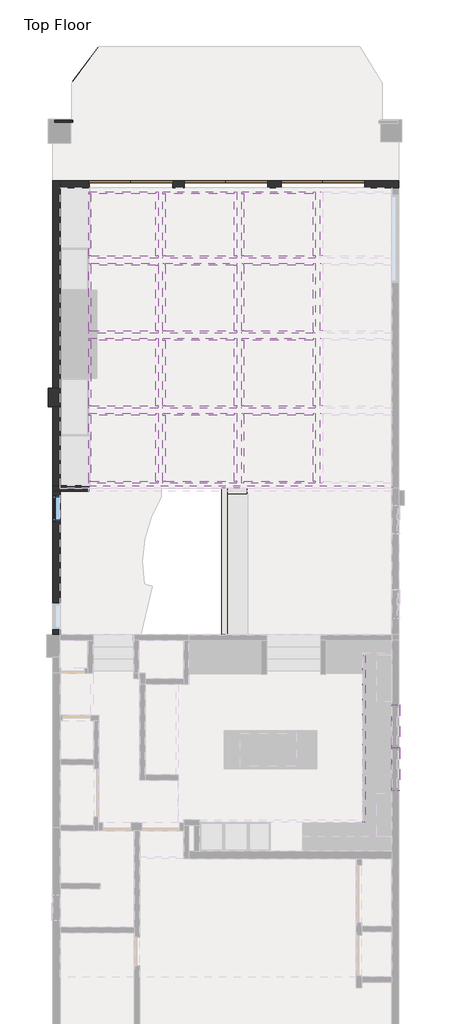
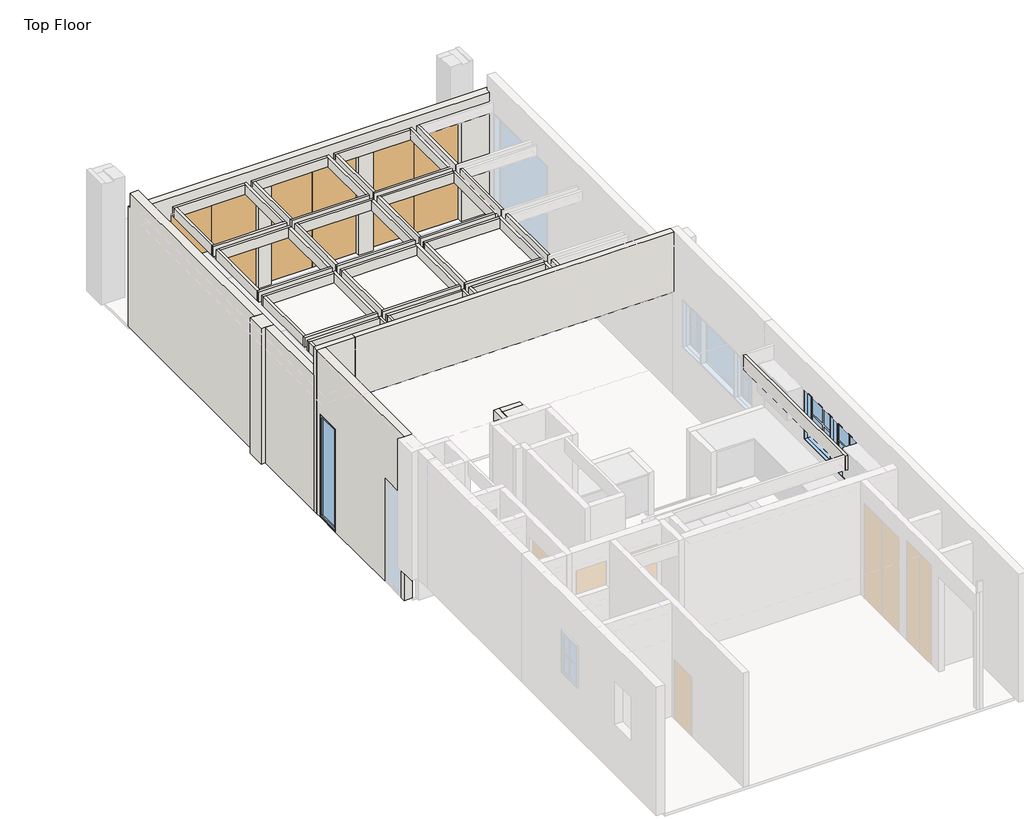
# One storey, part 2 of 3: 66 walls, 3 doors, 3 windows.
"""IFC4 building model written with IfcOpenShell, lengths in millimetres."""

from ifc_helpers import new_model, si_unit, frame, origin, place, context, project, spatial, polyline, outline, extrude, faceted_brep, transform, mapped, element, save
from components import door_7a34eea0, default_1_1963fb7e, default_1_c114c924, default_1_9668cb2b

model = new_model("IFC4")

# Units and contexts
model_context = context("Model", 3, world=origin())
ifc_project = project(units=[si_unit("LENGTHUNIT", "METRE", prefix="MILLI")], contexts=[model_context])

# Site, building, storey
site = spatial("IfcSite", under=ifc_project)
building = spatial("IfcBuilding", under=site)
storey = spatial("IfcBuildingStorey", under=building, Name="Top Floor", Elevation=2743.2)

# Doors
placement = place(None, origin())
door_shape = door_7a34eea0(model_context)
element("IfcDoor", 1, ObjectType="Planitar - Double Door_Flush Panel : 5'-10\" x 6'-8\"", at=placement, inside=storey, context=model_context, shape_type="MappedRepresentation", body=[
    mapped(door_shape, transform((-4445.0, 13246.1, 2743.2), x_axis=(1.0, 0.0, 0.0), y_axis=(0.0, 1.0, 0.0), z_axis=(0.0, 0.0, 1.0))),
])
element("IfcDoor", 2, ObjectType="Planitar - Double Door_Flush Panel : 5'-10\" x 6'-8\"", at=placement, inside=storey, context=model_context, shape_type="MappedRepresentation", body=[
    mapped(door_shape, transform((-2419.35, 13246.1, 2743.2), x_axis=(1.0, 0.0, 0.0), y_axis=(0.0, 1.0, 0.0), z_axis=(0.0, 0.0, 1.0))),
])
element("IfcDoor", 3, ObjectType="Planitar - Double Door_Flush Panel : 5'-10\" x 6'-8\"", at=placement, inside=storey, context=model_context, shape_type="MappedRepresentation", body=[
    mapped(door_shape, transform((-349.25, 13246.1, 2743.2), x_axis=(1.0, 0.0, 0.0), y_axis=(0.0, 1.0, 0.0), z_axis=(0.0, 0.0, 1.0))),
])

# Walls
element("IfcWall", 4, ObjectType="Planitar - Generic 6\"", at=placement, inside=storey, context=model_context, shape_type="Brep", body=[
    faceted_brep([(1270.0, 13169.9, 5308.6), (1117.6, 13169.9, 5308.6), (-5949.95, 13169.9, 5308.6), (-5949.95, 13169.9, 2743.2), (-5334.0, 13169.9, 2743.2), (-5334.0, 13169.9, 4953.0), (-3556.0, 13169.9, 4953.0), (-3556.0, 13169.9, 2743.2), (-3308.35, 13169.9, 2743.2), (-3308.35, 13169.9, 4953.0), (-1530.35, 13169.9, 4953.0), (-1530.35, 13169.9, 2743.2), (-1238.25, 13169.9, 2743.2), (-1238.25, 13169.9, 4953.0), (539.75, 13169.9, 4953.0), (539.75, 13169.9, 2743.2), (1117.6, 13169.9, 2743.2), (1270.0, 13169.9, 2743.2), (-5949.95, 13322.3, 5308.6), (1270.0, 13322.3, 5308.6), (1270.0, 13322.3, 2743.2), (539.75, 13322.3, 2743.2), (539.75, 13322.3, 4953.0), (-1238.25, 13322.3, 4953.0), (-1238.25, 13322.3, 2743.2), (-1530.35, 13322.3, 2743.2), (-1530.35, 13322.3, 4953.0), (-3308.35, 13322.3, 4953.0), (-3308.35, 13322.3, 2743.2), (-3556.0, 13322.3, 2743.2), (-3556.0, 13322.3, 4953.0), (-5334.0, 13322.3, 4953.0), (-5334.0, 13322.3, 2743.2), (-5949.95, 13322.3, 2743.2), (1270.0, 13246.1, 5308.6), (-5949.95, 13246.1, 5308.6)], [[[0, 1, 2, 3, 4, 5, 6, 7, 8, 9, 10, 11, 12, 13, 14, 15, 16, 17]], [[18, 19, 20, 21, 22, 23, 24, 25, 26, 27, 28, 29, 30, 31, 32, 33]], [[3, 33, 32, 4]], [[20, 17, 16, 15, 21]], [[7, 29, 28, 8]], [[11, 25, 24, 12]], [[2, 1, 0, 34, 19, 18, 35]], [[3, 2, 35, 18, 33]], [[0, 17, 20, 19, 34]], [[6, 30, 29, 7]], [[30, 6, 5, 31]], [[31, 5, 4, 32]], [[10, 26, 25, 11]], [[26, 10, 9, 27]], [[27, 9, 8, 28]], [[14, 22, 21, 15]], [[22, 14, 13, 23]], [[23, 13, 12, 24]]]),
])
element("IfcWall", 5, ObjectType="Planitar - Generic 4 1/2\"", at=placement, inside=storey, context=model_context, shape_type="Brep", body=[
    faceted_brep([(-2387.6, 3632.2, 3657.6), (-2387.6, 3632.2, 2743.2), (-2387.6, 6648.45, 2743.2), (-2387.6, 6762.75, 2743.2), (-2387.6, 6762.75, 3657.6), (-2387.6, 6648.45, 3657.6), (-2501.9, 3632.2, 2743.2), (-2501.9, 3632.2, 3657.6), (-2501.9, 6762.75, 3657.6), (-2501.9, 6762.75, 2743.2), (-2470.15, 3632.2, 2743.2)], [[[0, 1, 2, 3, 4, 5]], [[6, 7, 8, 9]], [[3, 2, 1, 10, 6, 9]], [[0, 5, 4, 8, 7]], [[4, 3, 9, 8]], [[0, 7, 6, 10, 1]]]),
])
element("IfcWall", 6, ObjectType="Planitar - Generic 4 1/2\"", at=placement, inside=storey, context=model_context, shape_type="SweptSolid", body=[
    extrude(outline(polyline([(-1974.85, 6648.45), (-2387.6, 6648.45), (-2387.6, 6762.75), (-1974.85, 6762.75), (-1974.85, 6648.45)])), frame((0.0, 0.0, 2743.2), z_axis=(0.0, 0.0, 1.0), x_axis=(1.0, 0.0, 0.0)), (0.0, 0.0, 1.0), 914.4),
])
element("IfcWall", 7, ObjectType="Planitar - Generic 4 1/2\"", at=placement, inside=storey, context=model_context, shape_type="Brep", body=[
    faceted_brep([(-6115.05, 6699.25, 6248.4), (-6115.05, 6699.25, 2743.2), (-5949.95, 6699.25, 2743.2), (-5340.35, 6699.25, 2743.2), (-5340.35, 6699.25, 4965.7), (-5340.35, 6699.25, 6248.4), (-5949.95, 6699.25, 6248.4), (-6115.05, 6813.55, 2743.2), (-6115.05, 6813.55, 5638.8), (-6115.05, 6813.55, 6248.4), (-5340.35, 6813.55, 6248.4), (-5340.35, 6813.55, 4965.7), (-5340.35, 6813.55, 2743.2), (-5949.95, 6813.55, 2743.2)], [[[0, 1, 2, 3, 4, 5, 6]], [[7, 8, 9, 10, 11, 12, 13]], [[3, 2, 1, 7, 13, 12]], [[5, 4, 3, 12, 11, 10]], [[0, 6, 5, 10, 9]], [[0, 9, 8, 7, 1]]]),
])
element("IfcWall", 8, ObjectType="Planitar - Generic 2\"", at=placement, inside=storey, context=model_context, shape_type="Brep", body=[
    faceted_brep([(501.65, 3203.8188419, 5638.8), (501.65, -311.15, 5638.8), (501.65, -361.95, 5638.8), (501.65, -361.95, 5943.6), (501.65, -311.15, 5943.6), (501.65, 3203.8188419, 5943.6), (552.45, 3203.8188419, 5638.8), (552.45, 3203.8188419, 5943.6), (552.45, -361.95, 5943.6), (552.45, -361.95, 5638.8)], [[[0, 1, 2, 3, 4, 5]], [[6, 7, 8, 9]], [[2, 1, 0, 6, 9]], [[5, 4, 3, 8, 7]], [[0, 5, 7, 6]], [[3, 2, 9, 8]]]),
])
element("IfcWall", 9, ObjectType="Planitar - Generic 4 1/2\"", at=placement, inside=storey, context=model_context, shape_type="Brep", body=[
    faceted_brep([(-5340.35, 6699.25, 4965.7), (1117.6, 6699.25, 4965.7), (1117.6, 6699.25, 6248.4), (-5340.35, 6699.25, 6248.4), (-5340.35, 6813.55, 4965.7), (-5340.35, 6813.55, 6248.4), (1117.6, 6813.55, 6248.4), (1117.6, 6813.55, 5638.8), (1117.6, 6813.55, 4965.7)], [[[0, 1, 2, 3]], [[4, 5, 6, 7, 8]], [[1, 0, 4, 8]], [[3, 2, 6, 5]], [[0, 3, 5, 4]], [[1, 8, 7, 6, 2]]]),
])
element("IfcWall", 10, ObjectType="Planitar - Generic 2\"", at=placement, inside=storey, context=model_context, shape_type="Brep", body=[
    faceted_brep([(-5346.7, 6864.35, 4965.7), (-3860.8, 6864.35, 4965.7), (-3860.8, 6864.35, 5176.3599992), (-5346.7, 6864.35, 5176.3599992), (-5346.7, 6915.15, 4965.7), (-5346.7, 6915.15, 5176.3599992), (-5295.9, 6915.15, 5176.3599992), (-3911.6, 6915.15, 5176.3599992), (-3860.8, 6915.15, 5176.3599992), (-3860.8, 6915.15, 4965.7), (-3911.6, 6915.15, 4965.7), (-5295.9, 6915.15, 4965.7)], [[[0, 1, 2, 3]], [[4, 5, 6, 7, 8, 9, 10, 11]], [[1, 0, 4, 11, 10, 9]], [[3, 2, 8, 7, 6, 5]], [[2, 1, 9, 8]], [[0, 3, 5, 4]]]),
])
element("IfcWall", 11, ObjectType="Planitar - Generic 2\"", at=placement, inside=storey, context=model_context, shape_type="Brep", body=[
    faceted_brep([(-3860.8, 6915.15, 4965.7), (-3860.8, 8362.95, 4965.7), (-3860.8, 8362.95, 5176.3599992), (-3860.8, 6915.15, 5176.3599992), (-3911.6, 6915.15, 4965.7), (-3911.6, 6915.15, 5176.3599992), (-3911.6, 8312.15, 5176.3599992), (-3911.6, 8362.95, 5176.3599992), (-3911.6, 8362.95, 4965.7), (-3911.6, 8312.15, 4965.7)], [[[0, 1, 2, 3]], [[4, 5, 6, 7, 8, 9]], [[1, 0, 4, 9, 8]], [[3, 2, 7, 6, 5]], [[0, 3, 5, 4]], [[2, 1, 8, 7]]]),
])
element("IfcWall", 12, ObjectType="Planitar - Generic 2\"", at=placement, inside=storey, context=model_context, shape_type="Brep", body=[
    faceted_brep([(-3911.6, 8362.95, 4965.7), (-5346.7, 8362.95, 4965.7), (-5346.7, 8362.95, 5176.3599992), (-3911.6, 8362.95, 5176.3599992), (-3911.6, 8312.15, 4965.7), (-3911.6, 8312.15, 5176.3599992), (-5295.9, 8312.15, 5176.3599992), (-5346.7, 8312.15, 5176.3599992), (-5346.7, 8312.15, 4965.7), (-5295.9, 8312.15, 4965.7)], [[[0, 1, 2, 3]], [[4, 5, 6, 7, 8, 9]], [[1, 0, 4, 9, 8]], [[3, 2, 7, 6, 5]], [[0, 3, 5, 4]], [[2, 1, 8, 7]]]),
])
element("IfcWall", 13, ObjectType="Planitar - Generic 2\"", at=placement, inside=storey, context=model_context, shape_type="SweptSolid", body=[
    extrude(outline(polyline([(-5346.7, 6915.15), (-5346.7, 8312.15), (-5295.9, 8312.15), (-5295.9, 6915.15), (-5346.7, 6915.15)])), frame((0.0, 0.0, 4965.7), z_axis=(0.0, 0.0, 1.0), x_axis=(1.0, 0.0, 0.0)), (0.0, 0.0, 1.0), 210.6599992),
])
element("IfcWall", 14, ObjectType="Planitar - Generic 2\"", at=placement, inside=storey, context=model_context, shape_type="Brep", body=[
    faceted_brep([(-3759.2, 6864.35, 4965.7), (-2184.4, 6864.35, 4965.7), (-2184.4, 6864.35, 5176.3599992), (-3759.2, 6864.35, 5176.3599992), (-3759.2, 6915.15, 4965.7), (-3759.2, 6915.15, 5176.3599992), (-3708.4, 6915.15, 5176.3599992), (-2235.2, 6915.15, 5176.3599992), (-2184.4, 6915.15, 5176.3599992), (-2184.4, 6915.15, 4965.7), (-2235.2, 6915.15, 4965.7), (-3708.4, 6915.15, 4965.7)], [[[0, 1, 2, 3]], [[4, 5, 6, 7, 8, 9, 10, 11]], [[1, 0, 4, 11, 10, 9]], [[3, 2, 8, 7, 6, 5]], [[2, 1, 9, 8]], [[0, 3, 5, 4]]]),
])
element("IfcWall", 15, ObjectType="Planitar - Generic 2\"", at=placement, inside=storey, context=model_context, shape_type="Brep", body=[
    faceted_brep([(-2184.4, 6915.15, 4965.7), (-2184.4, 8362.95, 4965.7), (-2184.4, 8362.95, 5176.3599992), (-2184.4, 6915.15, 5176.3599992), (-2235.2, 6915.15, 4965.7), (-2235.2, 6915.15, 5176.3599992), (-2235.2, 8312.15, 5176.3599992), (-2235.2, 8362.95, 5176.3599992), (-2235.2, 8362.95, 4965.7), (-2235.2, 8312.15, 4965.7)], [[[0, 1, 2, 3]], [[4, 5, 6, 7, 8, 9]], [[1, 0, 4, 9, 8]], [[3, 2, 7, 6, 5]], [[0, 3, 5, 4]], [[2, 1, 8, 7]]]),
])
element("IfcWall", 16, ObjectType="Planitar - Generic 2\"", at=placement, inside=storey, context=model_context, shape_type="Brep", body=[
    faceted_brep([(-2235.2, 8362.95, 4965.7), (-3759.2, 8362.95, 4965.7), (-3759.2, 8362.95, 5176.3599992), (-2235.2, 8362.95, 5176.3599992), (-2235.2, 8312.15, 4965.7), (-2235.2, 8312.15, 5176.3599992), (-3708.4, 8312.15, 5176.3599992), (-3759.2, 8312.15, 5176.3599992), (-3759.2, 8312.15, 4965.7), (-3708.4, 8312.15, 4965.7)], [[[0, 1, 2, 3]], [[4, 5, 6, 7, 8, 9]], [[1, 0, 4, 9, 8]], [[3, 2, 7, 6, 5]], [[0, 3, 5, 4]], [[2, 1, 8, 7]]]),
])
element("IfcWall", 17, ObjectType="Planitar - Generic 2\"", at=placement, inside=storey, context=model_context, shape_type="SweptSolid", body=[
    extrude(outline(polyline([(-3759.2, 6915.15), (-3759.2, 8312.15), (-3708.4, 8312.15), (-3708.4, 6915.15), (-3759.2, 6915.15)])), frame((0.0, 0.0, 4965.7), z_axis=(0.0, 0.0, 1.0), x_axis=(1.0, 0.0, 0.0)), (0.0, 0.0, 1.0), 210.6599992),
])
element("IfcWall", 18, ObjectType="Planitar - Generic 2\"", at=placement, inside=storey, context=model_context, shape_type="Brep", body=[
    faceted_brep([(-2082.8, 8362.95, 4965.7), (-2082.8, 6864.35, 4965.7), (-2082.8, 6864.35, 5176.3599992), (-2082.8, 8362.95, 5176.3599992), (-2032.0, 8362.95, 4965.7), (-2032.0, 8362.95, 5176.3599992), (-2032.0, 8312.15, 5176.3599992), (-2032.0, 6915.15, 5176.3599992), (-2032.0, 6864.35, 5176.3599992), (-2032.0, 6864.35, 4965.7), (-2032.0, 6915.15, 4965.7), (-2032.0, 8312.15, 4965.7)], [[[0, 1, 2, 3]], [[4, 5, 6, 7, 8, 9, 10, 11]], [[1, 0, 4, 11, 10, 9]], [[3, 2, 8, 7, 6, 5]], [[2, 1, 9, 8]], [[0, 3, 5, 4]]]),
])
element("IfcWall", 19, ObjectType="Planitar - Generic 2\"", at=placement, inside=storey, context=model_context, shape_type="Brep", body=[
    faceted_brep([(-2032.0, 6864.35, 4965.7), (-508.0, 6864.35, 4965.7), (-508.0, 6864.35, 5176.3599992), (-2032.0, 6864.35, 5176.3599992), (-2032.0, 6915.15, 4965.7), (-2032.0, 6915.15, 5176.3599992), (-558.8, 6915.15, 5176.3599992), (-508.0, 6915.15, 5176.3599992), (-508.0, 6915.15, 4965.7), (-558.8, 6915.15, 4965.7)], [[[0, 1, 2, 3]], [[4, 5, 6, 7, 8, 9]], [[1, 0, 4, 9, 8]], [[3, 2, 7, 6, 5]], [[0, 3, 5, 4]], [[2, 1, 8, 7]]]),
])
element("IfcWall", 20, ObjectType="Planitar - Generic 2\"", at=placement, inside=storey, context=model_context, shape_type="Brep", body=[
    faceted_brep([(-508.0, 6915.15, 4965.7), (-508.0, 8362.95, 4965.7), (-508.0, 8362.95, 5176.3599992), (-508.0, 6915.15, 5176.3599992), (-558.8, 6915.15, 4965.7), (-558.8, 6915.15, 5176.3599992), (-558.8, 8312.15, 5176.3599992), (-558.8, 8362.95, 5176.3599992), (-558.8, 8362.95, 4965.7), (-558.8, 8312.15, 4965.7)], [[[0, 1, 2, 3]], [[4, 5, 6, 7, 8, 9]], [[1, 0, 4, 9, 8]], [[3, 2, 7, 6, 5]], [[0, 3, 5, 4]], [[2, 1, 8, 7]]]),
])
element("IfcWall", 21, ObjectType="Planitar - Generic 2\"", at=placement, inside=storey, context=model_context, shape_type="SweptSolid", body=[
    extrude(outline(polyline([(-2032.0, 8362.95), (-558.8, 8362.95), (-558.8, 8312.15), (-2032.0, 8312.15), (-2032.0, 8362.95)])), frame((0.0, 0.0, 4965.7), z_axis=(0.0, 0.0, 1.0), x_axis=(1.0, 0.0, 0.0)), (0.0, 0.0, 1.0), 210.6599992),
])
element("IfcWall", 22, ObjectType="Planitar - Generic 2\"", at=placement, inside=storey, context=model_context, shape_type="Brep", body=[
    faceted_brep([(-406.4, 8362.95, 4965.7), (-406.4, 6864.35, 4965.7), (-406.4, 6864.35, 5176.3599992), (-406.4, 8362.95, 5176.3599992), (-355.6, 8362.95, 4965.7), (-355.6, 8362.95, 5176.3599992), (-355.6, 8312.15, 5176.3599992), (-355.6, 6915.15, 5176.3599992), (-355.6, 6864.35, 5176.3599992), (-355.6, 6864.35, 4965.7), (-355.6, 6915.15, 4965.7), (-355.6, 8312.15, 4965.7)], [[[0, 1, 2, 3]], [[4, 5, 6, 7, 8, 9, 10, 11]], [[1, 0, 4, 11, 10, 9]], [[3, 2, 8, 7, 6, 5]], [[2, 1, 9, 8]], [[0, 3, 5, 4]]]),
])
element("IfcWall", 23, ObjectType="Planitar - Generic 2\"", at=placement, inside=storey, context=model_context, shape_type="Brep", body=[
    faceted_brep([(-5346.7, 8464.55, 4965.7), (-3860.8, 8464.55, 4965.7), (-3860.8, 8464.55, 5176.3599992), (-5346.7, 8464.55, 5176.3599992), (-5346.7, 8515.35, 4965.7), (-5346.7, 8515.35, 5176.3599992), (-5295.9, 8515.35, 5176.3599992), (-3911.6, 8515.35, 5176.3599992), (-3860.8, 8515.35, 5176.3599992), (-3860.8, 8515.35, 4965.7), (-3911.6, 8515.35, 4965.7), (-5295.9, 8515.35, 4965.7)], [[[0, 1, 2, 3]], [[4, 5, 6, 7, 8, 9, 10, 11]], [[1, 0, 4, 11, 10, 9]], [[3, 2, 8, 7, 6, 5]], [[2, 1, 9, 8]], [[0, 3, 5, 4]]]),
])
element("IfcWall", 24, ObjectType="Planitar - Generic 2\"", at=placement, inside=storey, context=model_context, shape_type="Brep", body=[
    faceted_brep([(-3860.8, 8515.35, 4965.7), (-3860.8, 9963.15, 4965.7), (-3860.8, 9963.15, 5176.3599992), (-3860.8, 8515.35, 5176.3599992), (-3911.6, 8515.35, 4965.7), (-3911.6, 8515.35, 5176.3599992), (-3911.6, 9912.35, 5176.3599992), (-3911.6, 9963.15, 5176.3599992), (-3911.6, 9963.15, 4965.7), (-3911.6, 9912.35, 4965.7)], [[[0, 1, 2, 3]], [[4, 5, 6, 7, 8, 9]], [[1, 0, 4, 9, 8]], [[3, 2, 7, 6, 5]], [[0, 3, 5, 4]], [[2, 1, 8, 7]]]),
])
element("IfcWall", 25, ObjectType="Planitar - Generic 2\"", at=placement, inside=storey, context=model_context, shape_type="Brep", body=[
    faceted_brep([(-3911.6, 9963.15, 4965.7), (-5346.7, 9963.15, 4965.7), (-5346.7, 9963.15, 5176.3599992), (-3911.6, 9963.15, 5176.3599992), (-3911.6, 9912.35, 4965.7), (-3911.6, 9912.35, 5176.3599992), (-5295.9, 9912.35, 5176.3599992), (-5346.7, 9912.35, 5176.3599992), (-5346.7, 9912.35, 4965.7), (-5295.9, 9912.35, 4965.7)], [[[0, 1, 2, 3]], [[4, 5, 6, 7, 8, 9]], [[1, 0, 4, 9, 8]], [[3, 2, 7, 6, 5]], [[0, 3, 5, 4]], [[2, 1, 8, 7]]]),
])
element("IfcWall", 26, ObjectType="Planitar - Generic 2\"", at=placement, inside=storey, context=model_context, shape_type="SweptSolid", body=[
    extrude(outline(polyline([(-5346.7, 8515.35), (-5346.7, 9912.35), (-5295.9, 9912.35), (-5295.9, 8515.35), (-5346.7, 8515.35)])), frame((0.0, 0.0, 4965.7), z_axis=(0.0, 0.0, 1.0), x_axis=(1.0, 0.0, 0.0)), (0.0, 0.0, 1.0), 210.6599992),
])
element("IfcWall", 27, ObjectType="Planitar - Generic 2\"", at=placement, inside=storey, context=model_context, shape_type="Brep", body=[
    faceted_brep([(-3759.2, 8464.55, 4965.7), (-2184.4, 8464.55, 4965.7), (-2184.4, 8464.55, 5176.3599992), (-3759.2, 8464.55, 5176.3599992), (-3759.2, 8515.35, 4965.7), (-3759.2, 8515.35, 5176.3599992), (-3708.4, 8515.35, 5176.3599992), (-2235.2, 8515.35, 5176.3599992), (-2184.4, 8515.35, 5176.3599992), (-2184.4, 8515.35, 4965.7), (-2235.2, 8515.35, 4965.7), (-3708.4, 8515.35, 4965.7)], [[[0, 1, 2, 3]], [[4, 5, 6, 7, 8, 9, 10, 11]], [[1, 0, 4, 11, 10, 9]], [[3, 2, 8, 7, 6, 5]], [[2, 1, 9, 8]], [[0, 3, 5, 4]]]),
])
element("IfcWall", 28, ObjectType="Planitar - Generic 2\"", at=placement, inside=storey, context=model_context, shape_type="Brep", body=[
    faceted_brep([(-2184.4, 8515.35, 4965.7), (-2184.4, 9963.15, 4965.7), (-2184.4, 9963.15, 5176.3599992), (-2184.4, 8515.35, 5176.3599992), (-2235.2, 8515.35, 4965.7), (-2235.2, 8515.35, 5176.3599992), (-2235.2, 9912.35, 5176.3599992), (-2235.2, 9963.15, 5176.3599992), (-2235.2, 9963.15, 4965.7), (-2235.2, 9912.35, 4965.7)], [[[0, 1, 2, 3]], [[4, 5, 6, 7, 8, 9]], [[1, 0, 4, 9, 8]], [[3, 2, 7, 6, 5]], [[0, 3, 5, 4]], [[2, 1, 8, 7]]]),
])
element("IfcWall", 29, ObjectType="Planitar - Generic 2\"", at=placement, inside=storey, context=model_context, shape_type="Brep", body=[
    faceted_brep([(-2235.2, 9963.15, 4965.7), (-3759.2, 9963.15, 4965.7), (-3759.2, 9963.15, 5176.3599992), (-2235.2, 9963.15, 5176.3599992), (-2235.2, 9912.35, 4965.7), (-2235.2, 9912.35, 5176.3599992), (-3708.4, 9912.35, 5176.3599992), (-3759.2, 9912.35, 5176.3599992), (-3759.2, 9912.35, 4965.7), (-3708.4, 9912.35, 4965.7)], [[[0, 1, 2, 3]], [[4, 5, 6, 7, 8, 9]], [[1, 0, 4, 9, 8]], [[3, 2, 7, 6, 5]], [[0, 3, 5, 4]], [[2, 1, 8, 7]]]),
])
element("IfcWall", 30, ObjectType="Planitar - Generic 2\"", at=placement, inside=storey, context=model_context, shape_type="SweptSolid", body=[
    extrude(outline(polyline([(-3759.2, 8515.35), (-3759.2, 9912.35), (-3708.4, 9912.35), (-3708.4, 8515.35), (-3759.2, 8515.35)])), frame((0.0, 0.0, 4965.7), z_axis=(0.0, 0.0, 1.0), x_axis=(1.0, 0.0, 0.0)), (0.0, 0.0, 1.0), 210.6599992),
])
element("IfcWall", 31, ObjectType="Planitar - Generic 2\"", at=placement, inside=storey, context=model_context, shape_type="Brep", body=[
    faceted_brep([(-2082.8, 8464.55, 4965.7), (-508.0, 8464.55, 4965.7), (-508.0, 8464.55, 5176.3599992), (-2082.8, 8464.55, 5176.3599992), (-2082.8, 8515.35, 4965.7), (-2082.8, 8515.35, 5176.3599992), (-2032.0, 8515.35, 5176.3599992), (-558.8, 8515.35, 5176.3599992), (-508.0, 8515.35, 5176.3599992), (-508.0, 8515.35, 4965.7), (-558.8, 8515.35, 4965.7), (-2032.0, 8515.35, 4965.7)], [[[0, 1, 2, 3]], [[4, 5, 6, 7, 8, 9, 10, 11]], [[1, 0, 4, 11, 10, 9]], [[3, 2, 8, 7, 6, 5]], [[2, 1, 9, 8]], [[0, 3, 5, 4]]]),
])
element("IfcWall", 32, ObjectType="Planitar - Generic 2\"", at=placement, inside=storey, context=model_context, shape_type="Brep", body=[
    faceted_brep([(-508.0, 8515.35, 4965.7), (-508.0, 9963.15, 4965.7), (-508.0, 9963.15, 5176.3599992), (-508.0, 8515.35, 5176.3599992), (-558.8, 8515.35, 4965.7), (-558.8, 8515.35, 5176.3599992), (-558.8, 9912.35, 5176.3599992), (-558.8, 9963.15, 5176.3599992), (-558.8, 9963.15, 4965.7), (-558.8, 9912.35, 4965.7)], [[[0, 1, 2, 3]], [[4, 5, 6, 7, 8, 9]], [[1, 0, 4, 9, 8]], [[3, 2, 7, 6, 5]], [[0, 3, 5, 4]], [[2, 1, 8, 7]]]),
])
element("IfcWall", 33, ObjectType="Planitar - Generic 2\"", at=placement, inside=storey, context=model_context, shape_type="Brep", body=[
    faceted_brep([(-558.8, 9963.15, 4965.7), (-2082.8, 9963.15, 4965.7), (-2082.8, 9963.15, 5176.3599992), (-558.8, 9963.15, 5176.3599992), (-558.8, 9912.35, 4965.7), (-558.8, 9912.35, 5176.3599992), (-2032.0, 9912.35, 5176.3599992), (-2082.8, 9912.35, 5176.3599992), (-2082.8, 9912.35, 4965.7), (-2032.0, 9912.35, 4965.7)], [[[0, 1, 2, 3]], [[4, 5, 6, 7, 8, 9]], [[1, 0, 4, 9, 8]], [[3, 2, 7, 6, 5]], [[0, 3, 5, 4]], [[2, 1, 8, 7]]]),
])
element("IfcWall", 34, ObjectType="Planitar - Generic 2\"", at=placement, inside=storey, context=model_context, shape_type="SweptSolid", body=[
    extrude(outline(polyline([(-2082.8, 8515.35), (-2082.8, 9912.35), (-2032.0, 9912.35), (-2032.0, 8515.35), (-2082.8, 8515.35)])), frame((0.0, 0.0, 4965.7), z_axis=(0.0, 0.0, 1.0), x_axis=(1.0, 0.0, 0.0)), (0.0, 0.0, 1.0), 210.6599992),
])
element("IfcWall", 35, ObjectType="Planitar - Generic 2\"", at=placement, inside=storey, context=model_context, shape_type="Brep", body=[
    faceted_brep([(-355.6, 8515.35, 4965.7), (-355.6, 9912.35, 4965.7), (-355.6, 9963.15, 4965.7), (-355.6, 9963.15, 5176.3599992), (-355.6, 9912.35, 5176.3599992), (-355.6, 8515.35, 5176.3599992), (-406.4, 8515.35, 4965.7), (-406.4, 8515.35, 5176.3599992), (-406.4, 9963.15, 5176.3599992), (-406.4, 9963.15, 4965.7)], [[[0, 1, 2, 3, 4, 5]], [[6, 7, 8, 9]], [[2, 1, 0, 6, 9]], [[5, 4, 3, 8, 7]], [[0, 5, 7, 6]], [[3, 2, 9, 8]]]),
])
element("IfcWall", 36, ObjectType="Planitar - Generic 2\"", at=placement, inside=storey, context=model_context, shape_type="Brep", body=[
    faceted_brep([(-355.6, 10115.55, 4965.7), (-355.6, 11512.55, 4965.7), (-355.6, 11563.35, 4965.7), (-355.6, 11563.35, 5176.3599992), (-355.6, 11512.55, 5176.3599992), (-355.6, 10115.55, 5176.3599992), (-406.4, 10115.55, 4965.7), (-406.4, 10115.55, 5176.3599992), (-406.4, 11563.35, 5176.3599992), (-406.4, 11563.35, 4965.7)], [[[0, 1, 2, 3, 4, 5]], [[6, 7, 8, 9]], [[2, 1, 0, 6, 9]], [[5, 4, 3, 8, 7]], [[0, 5, 7, 6]], [[3, 2, 9, 8]]]),
])
element("IfcWall", 37, ObjectType="Planitar - Generic 2\"", at=placement, inside=storey, context=model_context, shape_type="Brep", body=[
    faceted_brep([(-558.8, 11563.35, 4965.7), (-558.8, 11512.55, 4965.7), (-558.8, 10115.55, 4965.7), (-558.8, 10064.75, 4965.7), (-558.8, 10064.75, 5176.3599992), (-558.8, 10115.55, 5176.3599992), (-558.8, 11512.55, 5176.3599992), (-558.8, 11563.35, 5176.3599992), (-508.0, 11563.35, 4965.7), (-508.0, 11563.35, 5176.3599992), (-508.0, 10064.75, 5176.3599992), (-508.0, 10064.75, 4965.7)], [[[0, 1, 2, 3, 4, 5, 6, 7]], [[8, 9, 10, 11]], [[3, 2, 1, 0, 8, 11]], [[7, 6, 5, 4, 10, 9]], [[4, 3, 11, 10]], [[0, 7, 9, 8]]]),
])
element("IfcWall", 38, ObjectType="Planitar - Generic 2\"", at=placement, inside=storey, context=model_context, shape_type="Brep", body=[
    faceted_brep([(-558.8, 10115.55, 4965.7), (-2032.0, 10115.55, 4965.7), (-2082.8, 10115.55, 4965.7), (-2082.8, 10115.55, 5176.3599992), (-2032.0, 10115.55, 5176.3599992), (-558.8, 10115.55, 5176.3599992), (-558.8, 10064.75, 4965.7), (-558.8, 10064.75, 5176.3599992), (-2082.8, 10064.75, 5176.3599992), (-2082.8, 10064.75, 4965.7)], [[[0, 1, 2, 3, 4, 5]], [[6, 7, 8, 9]], [[2, 1, 0, 6, 9]], [[5, 4, 3, 8, 7]], [[0, 5, 7, 6]], [[3, 2, 9, 8]]]),
])
element("IfcWall", 39, ObjectType="Planitar - Generic 2\"", at=placement, inside=storey, context=model_context, shape_type="Brep", body=[
    faceted_brep([(-2032.0, 10115.55, 4965.7), (-2032.0, 11512.55, 4965.7), (-2032.0, 11563.35, 4965.7), (-2032.0, 11563.35, 5176.3599992), (-2032.0, 11512.55, 5176.3599992), (-2032.0, 10115.55, 5176.3599992), (-2082.8, 10115.55, 4965.7), (-2082.8, 10115.55, 5176.3599992), (-2082.8, 11563.35, 5176.3599992), (-2082.8, 11563.35, 4965.7)], [[[0, 1, 2, 3, 4, 5]], [[6, 7, 8, 9]], [[2, 1, 0, 6, 9]], [[5, 4, 3, 8, 7]], [[0, 5, 7, 6]], [[3, 2, 9, 8]]]),
])
element("IfcWall", 40, ObjectType="Planitar - Generic 2\"", at=placement, inside=storey, context=model_context, shape_type="SweptSolid", body=[
    extrude(outline(polyline([(-558.8, 11512.55), (-2032.0, 11512.55), (-2032.0, 11563.35), (-558.8, 11563.35), (-558.8, 11512.55)])), frame((0.0, 0.0, 4965.7), z_axis=(0.0, 0.0, 1.0), x_axis=(1.0, 0.0, 0.0)), (0.0, 0.0, 1.0), 210.6599992),
])
element("IfcWall", 41, ObjectType="Planitar - Generic 2\"", at=placement, inside=storey, context=model_context, shape_type="Brep", body=[
    faceted_brep([(-2184.4, 10115.55, 4965.7), (-2235.2, 10115.55, 4965.7), (-3708.4, 10115.55, 4965.7), (-3759.2, 10115.55, 4965.7), (-3759.2, 10115.55, 5176.3599992), (-3708.4, 10115.55, 5176.3599992), (-2235.2, 10115.55, 5176.3599992), (-2184.4, 10115.55, 5176.3599992), (-2184.4, 10064.75, 4965.7), (-2184.4, 10064.75, 5176.3599992), (-3759.2, 10064.75, 5176.3599992), (-3759.2, 10064.75, 4965.7)], [[[0, 1, 2, 3, 4, 5, 6, 7]], [[8, 9, 10, 11]], [[3, 2, 1, 0, 8, 11]], [[7, 6, 5, 4, 10, 9]], [[4, 3, 11, 10]], [[0, 7, 9, 8]]]),
])
element("IfcWall", 42, ObjectType="Planitar - Generic 2\"", at=placement, inside=storey, context=model_context, shape_type="Brep", body=[
    faceted_brep([(-3708.4, 10115.55, 4965.7), (-3708.4, 11512.55, 4965.7), (-3708.4, 11563.35, 4965.7), (-3708.4, 11563.35, 5176.3599992), (-3708.4, 11512.55, 5176.3599992), (-3708.4, 10115.55, 5176.3599992), (-3759.2, 10115.55, 4965.7), (-3759.2, 10115.55, 5176.3599992), (-3759.2, 11563.35, 5176.3599992), (-3759.2, 11563.35, 4965.7)], [[[0, 1, 2, 3, 4, 5]], [[6, 7, 8, 9]], [[2, 1, 0, 6, 9]], [[5, 4, 3, 8, 7]], [[0, 5, 7, 6]], [[3, 2, 9, 8]]]),
])
element("IfcWall", 43, ObjectType="Planitar - Generic 2\"", at=placement, inside=storey, context=model_context, shape_type="Brep", body=[
    faceted_brep([(-3708.4, 11512.55, 4965.7), (-2235.2, 11512.55, 4965.7), (-2184.4, 11512.55, 4965.7), (-2184.4, 11512.55, 5176.3599992), (-2235.2, 11512.55, 5176.3599992), (-3708.4, 11512.55, 5176.3599992), (-3708.4, 11563.35, 4965.7), (-3708.4, 11563.35, 5176.3599992), (-2184.4, 11563.35, 5176.3599992), (-2184.4, 11563.35, 4965.7)], [[[0, 1, 2, 3, 4, 5]], [[6, 7, 8, 9]], [[2, 1, 0, 6, 9]], [[5, 4, 3, 8, 7]], [[0, 5, 7, 6]], [[3, 2, 9, 8]]]),
])
element("IfcWall", 44, ObjectType="Planitar - Generic 2\"", at=placement, inside=storey, context=model_context, shape_type="SweptSolid", body=[
    extrude(outline(polyline([(-2235.2, 10115.55), (-2235.2, 11512.55), (-2184.4, 11512.55), (-2184.4, 10115.55), (-2235.2, 10115.55)])), frame((0.0, 0.0, 4965.7), z_axis=(0.0, 0.0, 1.0), x_axis=(1.0, 0.0, 0.0)), (0.0, 0.0, 1.0), 210.6599992),
])
element("IfcWall", 45, ObjectType="Planitar - Generic 2\"", at=placement, inside=storey, context=model_context, shape_type="Brep", body=[
    faceted_brep([(-3860.8, 10115.55, 4965.7), (-3911.6, 10115.55, 4965.7), (-5295.9, 10115.55, 4965.7), (-5346.7, 10115.55, 4965.7), (-5346.7, 10115.55, 5176.3599992), (-5295.9, 10115.55, 5176.3599992), (-3911.6, 10115.55, 5176.3599992), (-3860.8, 10115.55, 5176.3599992), (-3860.8, 10064.75, 4965.7), (-3860.8, 10064.75, 5176.3599992), (-5346.7, 10064.75, 5176.3599992), (-5346.7, 10064.75, 4965.7)], [[[0, 1, 2, 3, 4, 5, 6, 7]], [[8, 9, 10, 11]], [[3, 2, 1, 0, 8, 11]], [[7, 6, 5, 4, 10, 9]], [[4, 3, 11, 10]], [[0, 7, 9, 8]]]),
])
element("IfcWall", 46, ObjectType="Planitar - Generic 2\"", at=placement, inside=storey, context=model_context, shape_type="Brep", body=[
    faceted_brep([(-5295.9, 10115.55, 4965.7), (-5295.9, 11512.55, 4965.7), (-5295.9, 11563.35, 4965.7), (-5295.9, 11563.35, 5176.3599992), (-5295.9, 11512.55, 5176.3599992), (-5295.9, 10115.55, 5176.3599992), (-5346.7, 10115.55, 4965.7), (-5346.7, 10115.55, 5176.3599992), (-5346.7, 11563.35, 5176.3599992), (-5346.7, 11563.35, 4965.7)], [[[0, 1, 2, 3, 4, 5]], [[6, 7, 8, 9]], [[2, 1, 0, 6, 9]], [[5, 4, 3, 8, 7]], [[0, 5, 7, 6]], [[3, 2, 9, 8]]]),
])
element("IfcWall", 47, ObjectType="Planitar - Generic 2\"", at=placement, inside=storey, context=model_context, shape_type="Brep", body=[
    faceted_brep([(-5295.9, 11512.55, 4965.7), (-3911.6, 11512.55, 4965.7), (-3860.8, 11512.55, 4965.7), (-3860.8, 11512.55, 5176.3599992), (-3911.6, 11512.55, 5176.3599992), (-5295.9, 11512.55, 5176.3599992), (-5295.9, 11563.35, 4965.7), (-5295.9, 11563.35, 5176.3599992), (-3860.8, 11563.35, 5176.3599992), (-3860.8, 11563.35, 4965.7)], [[[0, 1, 2, 3, 4, 5]], [[6, 7, 8, 9]], [[2, 1, 0, 6, 9]], [[5, 4, 3, 8, 7]], [[0, 5, 7, 6]], [[3, 2, 9, 8]]]),
])
element("IfcWall", 48, ObjectType="Planitar - Generic 2\"", at=placement, inside=storey, context=model_context, shape_type="SweptSolid", body=[
    extrude(outline(polyline([(-3911.6, 10115.55), (-3911.6, 11512.55), (-3860.8, 11512.55), (-3860.8, 10115.55), (-3911.6, 10115.55)])), frame((0.0, 0.0, 4965.7), z_axis=(0.0, 0.0, 1.0), x_axis=(1.0, 0.0, 0.0)), (0.0, 0.0, 1.0), 210.6599992),
])
element("IfcWall", 49, ObjectType="Planitar - Generic 2\"", at=placement, inside=storey, context=model_context, shape_type="Brep", body=[
    faceted_brep([(-5346.7, 11664.95, 4965.7), (-3860.8, 11664.95, 4965.7), (-3860.8, 11664.95, 5176.3599992), (-5346.7, 11664.95, 5176.3599992), (-5346.7, 11715.75, 4965.7), (-5346.7, 11715.75, 5176.3599992), (-5295.9, 11715.75, 5176.3599992), (-3911.6, 11715.75, 5176.3599992), (-3860.8, 11715.75, 5176.3599992), (-3860.8, 11715.75, 4965.7), (-3911.6, 11715.75, 4965.7), (-5295.9, 11715.75, 4965.7)], [[[0, 1, 2, 3]], [[4, 5, 6, 7, 8, 9, 10, 11]], [[1, 0, 4, 11, 10, 9]], [[3, 2, 8, 7, 6, 5]], [[2, 1, 9, 8]], [[0, 3, 5, 4]]]),
])
element("IfcWall", 50, ObjectType="Planitar - Generic 2\"", at=placement, inside=storey, context=model_context, shape_type="Brep", body=[
    faceted_brep([(-3860.8, 11715.75, 4965.7), (-3860.8, 13087.35, 4965.7), (-3860.8, 13087.35, 5176.3599992), (-3860.8, 11715.75, 5176.3599992), (-3911.6, 11715.75, 4965.7), (-3911.6, 11715.75, 5176.3599992), (-3911.6, 13036.55, 5176.3599992), (-3911.6, 13087.35, 5176.3599992), (-3911.6, 13087.35, 4965.7), (-3911.6, 13036.55, 4965.7)], [[[0, 1, 2, 3]], [[4, 5, 6, 7, 8, 9]], [[1, 0, 4, 9, 8]], [[3, 2, 7, 6, 5]], [[0, 3, 5, 4]], [[2, 1, 8, 7]]]),
])
element("IfcWall", 51, ObjectType="Planitar - Generic 2\"", at=placement, inside=storey, context=model_context, shape_type="Brep", body=[
    faceted_brep([(-3911.6, 13087.35, 4965.7), (-5346.7, 13087.35, 4965.7), (-5346.7, 13087.35, 5176.3599992), (-3911.6, 13087.35, 5176.3599992), (-3911.6, 13036.55, 4965.7), (-3911.6, 13036.55, 5176.3599992), (-5295.9, 13036.55, 5176.3599992), (-5346.7, 13036.55, 5176.3599992), (-5346.7, 13036.55, 4965.7), (-5295.9, 13036.55, 4965.7)], [[[0, 1, 2, 3]], [[4, 5, 6, 7, 8, 9]], [[1, 0, 4, 9, 8]], [[3, 2, 7, 6, 5]], [[0, 3, 5, 4]], [[2, 1, 8, 7]]]),
])
element("IfcWall", 52, ObjectType="Planitar - Generic 2\"", at=placement, inside=storey, context=model_context, shape_type="SweptSolid", body=[
    extrude(outline(polyline([(-5346.7, 11715.75), (-5346.7, 13036.55), (-5295.9, 13036.55), (-5295.9, 11715.75), (-5346.7, 11715.75)])), frame((0.0, 0.0, 4965.7), z_axis=(0.0, 0.0, 1.0), x_axis=(1.0, 0.0, 0.0)), (0.0, 0.0, 1.0), 210.6599992),
])
element("IfcWall", 53, ObjectType="Planitar - Generic 2\"", at=placement, inside=storey, context=model_context, shape_type="Brep", body=[
    faceted_brep([(-3759.2, 11664.95, 4965.7), (-2184.4, 11664.95, 4965.7), (-2184.4, 11664.95, 5176.3599992), (-3759.2, 11664.95, 5176.3599992), (-3759.2, 11715.75, 4965.7), (-3759.2, 11715.75, 5176.3599992), (-3708.4, 11715.75, 5176.3599992), (-2235.2, 11715.75, 5176.3599992), (-2184.4, 11715.75, 5176.3599992), (-2184.4, 11715.75, 4965.7), (-2235.2, 11715.75, 4965.7), (-3708.4, 11715.75, 4965.7)], [[[0, 1, 2, 3]], [[4, 5, 6, 7, 8, 9, 10, 11]], [[1, 0, 4, 11, 10, 9]], [[3, 2, 8, 7, 6, 5]], [[2, 1, 9, 8]], [[0, 3, 5, 4]]]),
])
element("IfcWall", 54, ObjectType="Planitar - Generic 2\"", at=placement, inside=storey, context=model_context, shape_type="Brep", body=[
    faceted_brep([(-2184.4, 11715.75, 4965.7), (-2184.4, 13087.35, 4965.7), (-2184.4, 13087.35, 5176.3599992), (-2184.4, 11715.75, 5176.3599992), (-2235.2, 11715.75, 4965.7), (-2235.2, 11715.75, 5176.3599992), (-2235.2, 13036.55, 5176.3599992), (-2235.2, 13087.35, 5176.3599992), (-2235.2, 13087.35, 4965.7), (-2235.2, 13036.55, 4965.7)], [[[0, 1, 2, 3]], [[4, 5, 6, 7, 8, 9]], [[1, 0, 4, 9, 8]], [[3, 2, 7, 6, 5]], [[0, 3, 5, 4]], [[2, 1, 8, 7]]]),
])
element("IfcWall", 55, ObjectType="Planitar - Generic 2\"", at=placement, inside=storey, context=model_context, shape_type="Brep", body=[
    faceted_brep([(-2235.2, 13087.35, 4965.7), (-3759.2, 13087.35, 4965.7), (-3759.2, 13087.35, 5176.3599992), (-2235.2, 13087.35, 5176.3599992), (-2235.2, 13036.55, 4965.7), (-2235.2, 13036.55, 5176.3599992), (-3708.4, 13036.55, 5176.3599992), (-3759.2, 13036.55, 5176.3599992), (-3759.2, 13036.55, 4965.7), (-3708.4, 13036.55, 4965.7)], [[[0, 1, 2, 3]], [[4, 5, 6, 7, 8, 9]], [[1, 0, 4, 9, 8]], [[3, 2, 7, 6, 5]], [[0, 3, 5, 4]], [[2, 1, 8, 7]]]),
])
element("IfcWall", 56, ObjectType="Planitar - Generic 2\"", at=placement, inside=storey, context=model_context, shape_type="SweptSolid", body=[
    extrude(outline(polyline([(-3759.2, 11715.75), (-3759.2, 13036.55), (-3708.4, 13036.55), (-3708.4, 11715.75), (-3759.2, 11715.75)])), frame((0.0, 0.0, 4965.7), z_axis=(0.0, 0.0, 1.0), x_axis=(1.0, 0.0, 0.0)), (0.0, 0.0, 1.0), 210.6599992),
])
element("IfcWall", 57, ObjectType="Planitar - Generic 2\"", at=placement, inside=storey, context=model_context, shape_type="Brep", body=[
    faceted_brep([(-2082.8, 11664.95, 4965.7), (-508.0, 11664.95, 4965.7), (-508.0, 11664.95, 5176.3599992), (-2082.8, 11664.95, 5176.3599992), (-2082.8, 11715.75, 4965.7), (-2082.8, 11715.75, 5176.3599992), (-2032.0, 11715.75, 5176.3599992), (-558.8, 11715.75, 5176.3599992), (-508.0, 11715.75, 5176.3599992), (-508.0, 11715.75, 4965.7), (-558.8, 11715.75, 4965.7), (-2032.0, 11715.75, 4965.7)], [[[0, 1, 2, 3]], [[4, 5, 6, 7, 8, 9, 10, 11]], [[1, 0, 4, 11, 10, 9]], [[3, 2, 8, 7, 6, 5]], [[2, 1, 9, 8]], [[0, 3, 5, 4]]]),
])
element("IfcWall", 58, ObjectType="Planitar - Generic 2\"", at=placement, inside=storey, context=model_context, shape_type="Brep", body=[
    faceted_brep([(-508.0, 11715.75, 4965.7), (-508.0, 13087.35, 4965.7), (-508.0, 13087.35, 5176.3599992), (-508.0, 11715.75, 5176.3599992), (-558.8, 11715.75, 4965.7), (-558.8, 11715.75, 5176.3599992), (-558.8, 13036.55, 5176.3599992), (-558.8, 13087.35, 5176.3599992), (-558.8, 13087.35, 4965.7), (-558.8, 13036.55, 4965.7)], [[[0, 1, 2, 3]], [[4, 5, 6, 7, 8, 9]], [[1, 0, 4, 9, 8]], [[3, 2, 7, 6, 5]], [[0, 3, 5, 4]], [[2, 1, 8, 7]]]),
])
element("IfcWall", 59, ObjectType="Planitar - Generic 2\"", at=placement, inside=storey, context=model_context, shape_type="Brep", body=[
    faceted_brep([(-558.8, 13087.35, 4965.7), (-2082.8, 13087.35, 4965.7), (-2082.8, 13087.35, 5176.3599992), (-558.8, 13087.35, 5176.3599992), (-558.8, 13036.55, 4965.7), (-558.8, 13036.55, 5176.3599992), (-2032.0, 13036.55, 5176.3599992), (-2082.8, 13036.55, 5176.3599992), (-2082.8, 13036.55, 4965.7), (-2032.0, 13036.55, 4965.7)], [[[0, 1, 2, 3]], [[4, 5, 6, 7, 8, 9]], [[1, 0, 4, 9, 8]], [[3, 2, 7, 6, 5]], [[0, 3, 5, 4]], [[2, 1, 8, 7]]]),
])
element("IfcWall", 60, ObjectType="Planitar - Generic 2\"", at=placement, inside=storey, context=model_context, shape_type="SweptSolid", body=[
    extrude(outline(polyline([(-2082.8, 11715.75), (-2082.8, 13036.55), (-2032.0, 13036.55), (-2032.0, 11715.75), (-2082.8, 11715.75)])), frame((0.0, 0.0, 4965.7), z_axis=(0.0, 0.0, 1.0), x_axis=(1.0, 0.0, 0.0)), (0.0, 0.0, 1.0), 210.6599992),
])
element("IfcWall", 61, ObjectType="Planitar - Generic 2\"", at=placement, inside=storey, context=model_context, shape_type="Brep", body=[
    faceted_brep([(-355.6, 11715.75, 4965.7), (-355.6, 13036.55, 4965.7), (-355.6, 13087.35, 4965.7), (-355.6, 13087.35, 5176.3599992), (-355.6, 13036.55, 5176.3599992), (-355.6, 11715.75, 5176.3599992), (-406.4, 11715.75, 4965.7), (-406.4, 11715.75, 5176.3599992), (-406.4, 13087.35, 5176.3599992), (-406.4, 13087.35, 4965.7)], [[[0, 1, 2, 3, 4, 5]], [[6, 7, 8, 9]], [[2, 1, 0, 6, 9]], [[5, 4, 3, 8, 7]], [[0, 5, 7, 6]], [[3, 2, 9, 8]]]),
])
element("IfcWall", 62, ObjectType="Planitar - Generic 6 1/2\"", at=placement, inside=storey, context=model_context, shape_type="Brep", body=[
    faceted_brep([(-5949.95, 8890.0, 2743.2), (-5949.95, 13169.9, 2743.2), (-5949.95, 13322.3, 2743.2), (-5949.95, 13322.3, 5308.6), (-5949.95, 13246.1, 5308.6), (-5949.95, 13246.1, 5638.8), (-5949.95, 8890.0, 5638.8), (-6115.05, 8890.0, 2743.2), (-6115.05, 8890.0, 5638.8), (-6115.05, 13246.1, 5638.8), (-6115.05, 13246.1, 5308.6), (-6115.05, 13322.3, 5308.6), (-6115.05, 13322.3, 2743.2)], [[[0, 1, 2, 3, 4, 5, 6]], [[7, 8, 9, 10, 11, 12]], [[2, 1, 0, 7, 12]], [[6, 5, 9, 8]], [[0, 6, 8, 7]], [[5, 4, 10, 9]], [[10, 4, 3, 11]], [[3, 2, 12, 11]]]),
])
element("IfcWall", 63, ObjectType="Planitar - Generic 10\"", at=placement, inside=storey, context=model_context, shape_type="Brep", body=[
    faceted_brep([(-6203.95, 8890.0, 2743.2), (-6203.95, 8502.65, 2743.2), (-6203.95, 8502.65, 5638.8), (-6203.95, 8890.0, 5638.8), (-5949.95, 8890.0, 2743.2), (-5949.95, 8890.0, 5638.8), (-5949.95, 8502.65, 5638.8), (-5949.95, 8502.65, 2743.2), (-6115.05, 8890.0, 2743.2), (-6115.05, 8502.65, 2743.2), (-6115.05, 8502.65, 5638.8), (-6115.05, 8890.0, 5638.8)], [[[0, 1, 2, 3]], [[4, 5, 6, 7]], [[1, 0, 8, 4, 7, 9]], [[2, 1, 9, 7, 6, 10]], [[3, 2, 10, 6, 5, 11]], [[0, 3, 11, 5, 4, 8]]]),
])
element("IfcWall", 64, ObjectType="Planitar - Generic 6 1/2\"", at=placement, inside=storey, context=model_context, shape_type="Brep", body=[
    faceted_brep([(-5949.95, 6699.25, 6248.4), (-5949.95, 3638.55, 6248.4), (-5949.95, 3638.55, 5943.6), (-5949.95, 3638.55, 2743.2), (-5949.95, 3752.2546875, 2743.2), (-5949.95, 3752.2546875, 4953.0), (-5949.95, 4311.0546875, 4953.0), (-5949.95, 4311.0546875, 2743.2), (-5949.95, 6048.375, 2743.2), (-5949.95, 6048.375, 4953.0), (-5949.95, 6607.175, 4953.0), (-5949.95, 6607.175, 2743.2), (-5949.95, 6699.25, 2743.2), (-6115.05, 3638.55, 6248.4), (-6115.05, 6699.25, 6248.4), (-6115.05, 6699.25, 2743.2), (-6115.05, 6607.175, 2743.2), (-6115.05, 6607.175, 4953.0), (-6115.05, 6048.375, 4953.0), (-6115.05, 6048.375, 2743.2), (-6115.05, 4311.0546875, 2743.2), (-6115.05, 4311.0546875, 4953.0), (-6115.05, 3752.2546875, 4953.0), (-6115.05, 3752.2546875, 2743.2), (-6115.05, 3638.55, 2743.2), (-5962.65, 3638.55, 6248.4)], [[[0, 1, 2, 3, 4, 5, 6, 7, 8, 9, 10, 11, 12]], [[13, 14, 15, 16, 17, 18, 19, 20, 21, 22, 23, 24]], [[4, 3, 24, 23]], [[7, 20, 19, 8]], [[15, 12, 11, 16]], [[1, 0, 14, 13, 25]], [[22, 5, 4, 23]], [[5, 22, 21, 6]], [[6, 21, 20, 7]], [[18, 9, 8, 19]], [[9, 18, 17, 10]], [[10, 17, 16, 11]], [[24, 3, 2, 1, 25, 13]], [[0, 12, 15, 14]]]),
])
element("IfcWall", 65, ObjectType="Planitar - Generic 6 1/2\"", at=placement, inside=storey, context=model_context, shape_type="SweptSolid", body=[
    extrude(outline(polyline([(-5949.95, 8502.65), (-5949.95, 6813.55), (-6115.05, 6813.55), (-6115.05, 8502.65), (-5949.95, 8502.65)])), frame((0.0, 0.0, 2743.2), z_axis=(0.0, 0.0, 1.0), x_axis=(1.0, 0.0, 0.0)), (0.0, 0.0, 1.0), 2895.6),
])
element("IfcWall", 66, ObjectType="Planitar - Generic 2\"", at=placement, inside=storey, context=model_context, shape_type="Brep", body=[
    faceted_brep([(-6064.25, 14560.55, 2743.2), (-5727.3558119, 14560.55, 2743.2), (-5683.25, 14560.55, 2743.2), (-5683.25, 14560.55, 3962.4), (-5727.3558119, 14560.55, 3962.4), (-6064.25, 14560.55, 3962.4), (-6064.25, 14611.35, 2743.2), (-6064.25, 14611.35, 3962.4), (-5727.3558119, 14611.35, 3962.4), (-5683.25, 14611.35, 3962.4), (-5683.25, 14611.35, 2743.2), (-5727.3558119, 14611.35, 2743.2)], [[[0, 1, 2, 3, 4, 5]], [[6, 7, 8, 9, 10, 11]], [[2, 1, 0, 6, 11, 10]], [[3, 2, 10, 9]], [[5, 4, 3, 9, 8, 7]], [[0, 5, 7, 6]]]),
])
element("IfcWall", 67, ObjectType="Planitar - Generic 2\"", at=placement, inside=storey, context=model_context, shape_type="Brep", body=[
    faceted_brep([(-5657.85, 14585.95, 2133.6), (-5657.85, 15382.000923, 2133.6), (-5657.85, 15467.4137363, 2133.6), (-5657.85, 15467.4137363, 2692.4), (-5657.85, 15382.000923, 2692.4), (-5657.85, 14585.95, 2692.4), (-5708.65, 14585.95, 2133.6), (-5708.65, 14585.95, 2692.4), (-5708.65, 15398.75, 2692.4), (-5708.65, 15398.75, 2133.6)], [[[0, 1, 2, 3, 4, 5]], [[6, 7, 8, 9]], [[2, 1, 0, 6, 9]], [[5, 4, 3, 8, 7]], [[0, 5, 7, 6]], [[3, 2, 9, 8]]]),
])
element("IfcWall", 68, ObjectType="Planitar - Generic 2\"", at=placement, inside=storey, context=model_context, shape_type="SweptSolid", body=[
    extrude(outline(polyline([(-5097.5769014, 16139.2931331), (-5657.85, 15382.000923), (-5657.85, 15467.4137363), (-5138.4152448, 16169.5068669), (-5097.5769014, 16139.2931331)])), frame((0.0, 0.0, 2133.6), z_axis=(0.0, 0.0, 1.0), x_axis=(1.0, 0.0, 0.0)), (0.0, 0.0, 1.0), 558.8),
])
element("IfcWall", 69, ObjectType="Planitar - Generic 2\"", at=placement, inside=storey, context=model_context, shape_type="SweptSolid", body=[
    extrude(outline(polyline([(423.9867917, 16129.0), (-5117.9960731, 16129.0), (-5117.9960731, 16179.8), (423.9867917, 16179.8), (423.9867917, 16129.0)])), frame((0.0, 0.0, 2133.6), z_axis=(0.0, 0.0, 1.0), x_axis=(1.0, 0.0, 0.0)), (0.0, 0.0, 1.0), 558.8),
])

# Windows
default_1_shape = default_1_1963fb7e(model_context)
element("IfcWindow", 70, ObjectType="Planitar-Fixed : Default 1", at=placement, inside=storey, context=model_context, shape_type="MappedRepresentation", body=[
    mapped(default_1_shape, transform((-6019.5, 6327.775, 1828.8), x_axis=(0.0, 1.0, 0.0), y_axis=(-1.0, 0.0, 0.0), z_axis=(0.0, 0.0, 1.0))),
])
default_1_2_shape = default_1_c114c924(model_context)
element("IfcWindow", 71, ObjectType="Planitar-Casement-Single_Left : Default 1", at=placement, inside=storey, context=model_context, shape_type="MappedRepresentation", body=[
    mapped(default_1_2_shape, transform((1193.8, 770.1359375, 3657.6), x_axis=(0.0, 1.0, 0.0), y_axis=(-1.0, 0.0, 0.0), z_axis=(0.0, 0.0, 1.0))),
])
default_1_3_shape = default_1_9668cb2b(model_context)
element("IfcWindow", 72, ObjectType="Planitar-Casement-Single_Left : Default 1", at=placement, inside=storey, context=model_context, shape_type="MappedRepresentation", body=[
    mapped(default_1_3_shape, transform((1193.8, 1684.5359375, 3657.6), x_axis=(0.0, -1.0, 0.0), y_axis=(1.0, 0.0, 0.0), z_axis=(0.0, 0.0, 1.0))),
])

save(model, "model.ifc")
